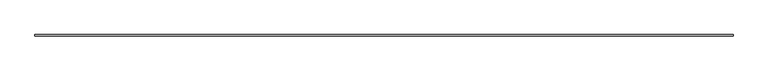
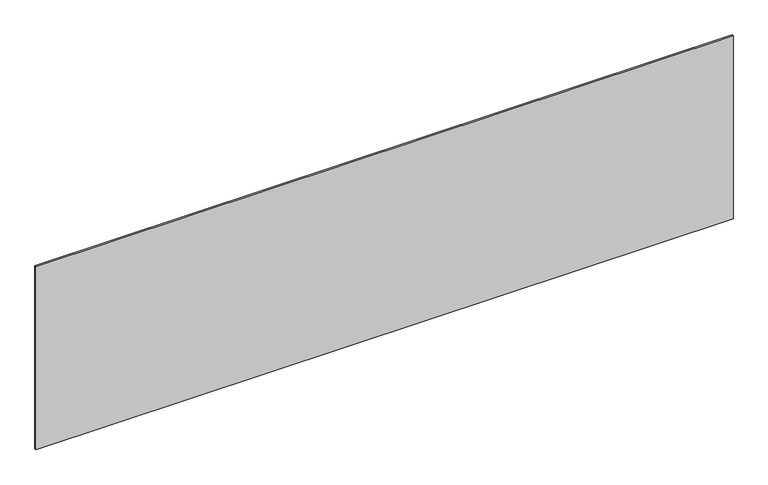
"""IFC4 building model written with IfcOpenShell, lengths in millimetres: plate geometry, システム パネル : 標準."""

from ifc_helpers import new_model, si_unit, origin, origin_with_axes, place, context, project, spatial, polyline, outline, extrude, source, transform, mapped, element, save


def plate_27c09c2a(model_context):
    return source(origin(), model_context, "Body", "SweptSolid", [
        extrude(outline(polyline([(2281.6666667, -5.0), (-2281.6666667, -5.0), (-2281.6666667, 5.0), (2281.6666667, 5.0), (2281.6666667, -5.0)])), origin_with_axes(), (0.0, 0.0, 1.0), 1265.8860683),
    ])


if __name__ == "__main__":
    model = new_model("IFC4")
    model_context = context("Model", 3, world=origin())
    ifc_project = project(units=[si_unit("LENGTHUNIT", "METRE", prefix="MILLI")], contexts=[model_context])
    site = spatial("IfcSite", under=ifc_project)
    building = spatial("IfcBuilding", under=site)
    placement = place(None, origin())
    plate_shape = plate_27c09c2a(model_context)
    element("IfcPlate", 1, ObjectType="システム パネル : 標準", at=placement, inside=building, context=model_context, shape_type="MappedRepresentation", body=[
        mapped(plate_shape, transform((0.0, 0.0, 0.0), x_axis=(1.0, 0.0, 0.0), y_axis=(0.0, 1.0, 0.0), z_axis=(0.0, 0.0, 1.0))),
    ])
    save(model, "model.ifc")
